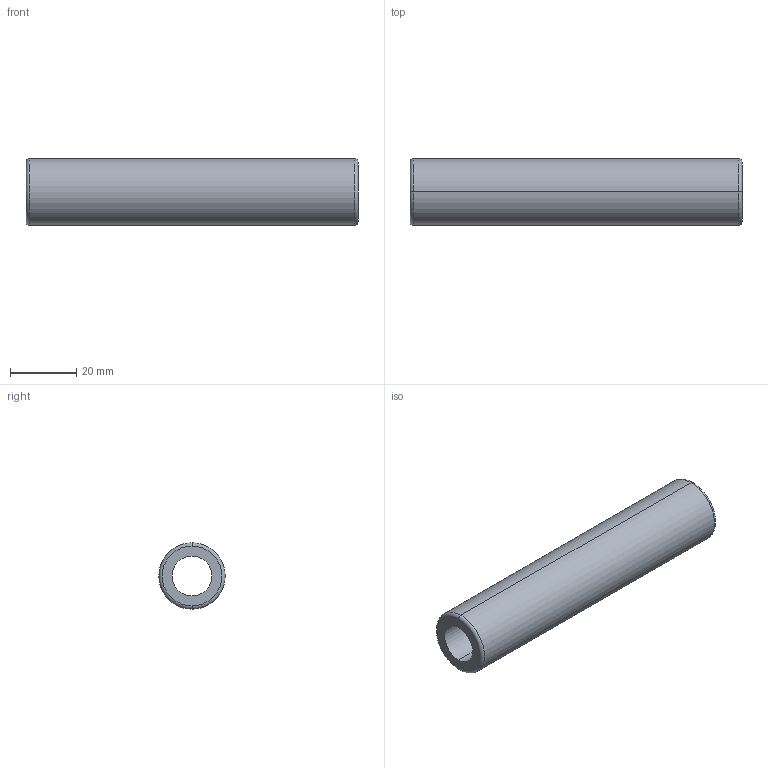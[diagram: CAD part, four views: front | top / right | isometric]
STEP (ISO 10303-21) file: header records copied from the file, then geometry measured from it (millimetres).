
FILE_DESCRIPTION (( 'STEP AP214' ), '1' );
FILE_NAME ('BR20 20x100.STEP', '2020-01-21T11:24:57', ( 'August' ), ( '' ), 'SwSTEP 2.0', 'SolidWorks 2018', '' );
FILE_SCHEMA (( 'AUTOMOTIVE_DESIGN' ));
Length unit declared in the file: millimetre
Products named in the file (1): BR20 20x100
Bounding box: 100 x 20 x 20 mm (x, y, z)
Volume: 12343.1 mm3; surface area: 11454.7 mm2
Topology: 1 solids, 1 shells, 14 faces, 28 edges, 16 vertices
Faces by surface type: cylinder 6, torus 4, cone 2, plane 2
Entity records: 406 total; most frequent: DIRECTION 78, CARTESIAN_POINT 59, ORIENTED_EDGE 56, AXIS2_PLACEMENT_3D 35, EDGE_CURVE 28, CIRCLE 20, EDGE_LOOP 16, VERTEX_POINT 16
